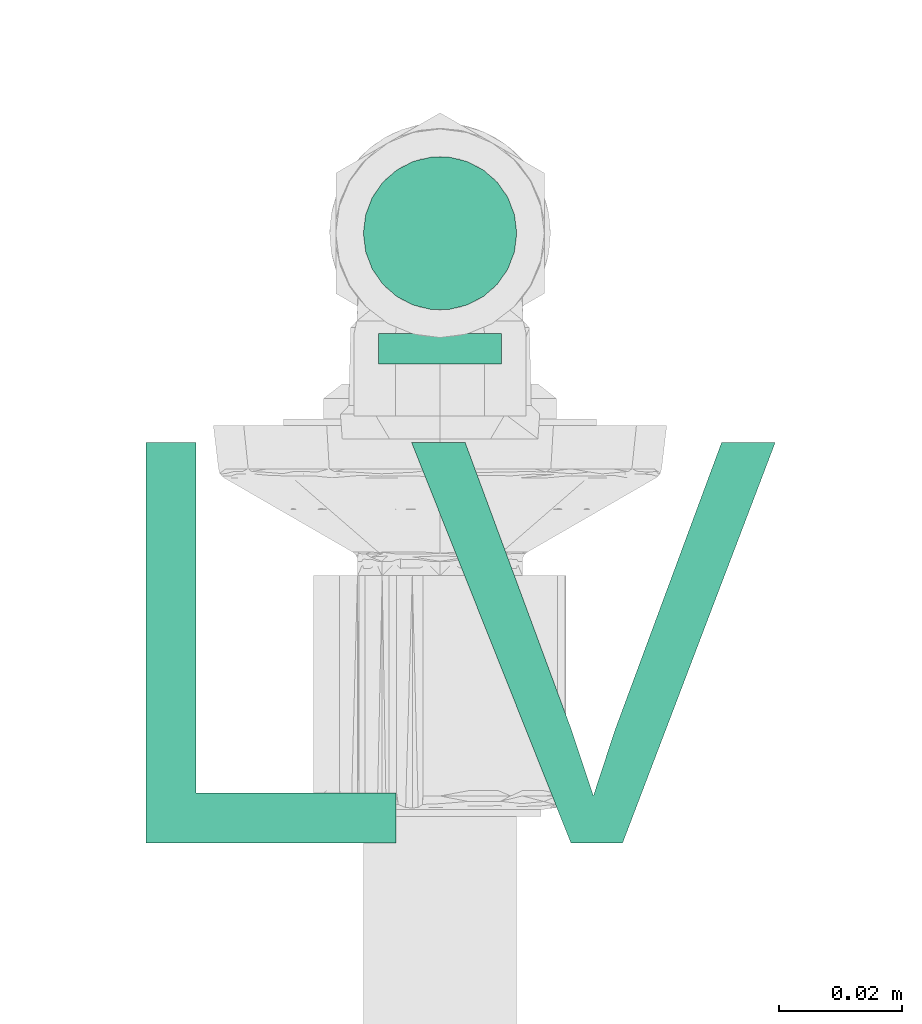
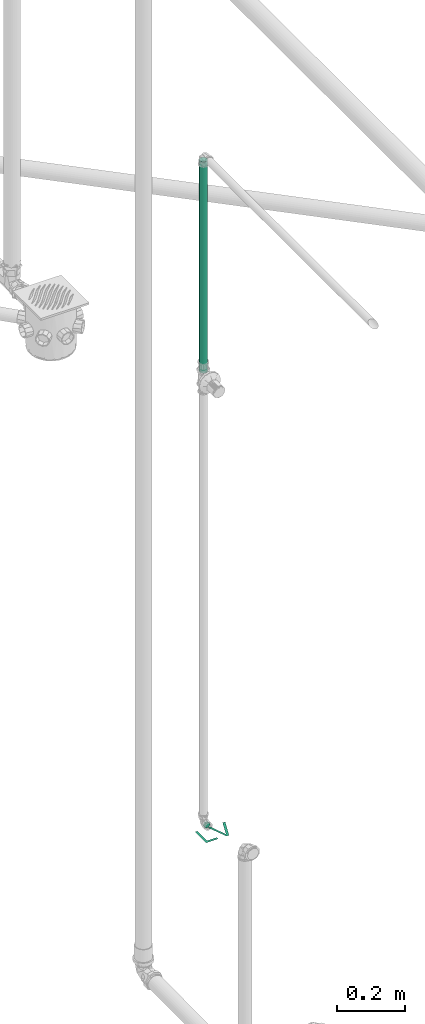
# One storey, part 187 of 589: 1 flow segment, 1 flow terminal.
"""IFC2X3 building model written with IfcOpenShell, lengths in millimetres."""

import ifcopenshell
import ifcopenshell.guid

model = None  # the IFC model being written
_history = None  # IfcOwnerHistory: only IFC2X3 demands one
_inside = {}  # id of a spatial element -> (the spatial element, [elements in it])
_under = {}  # id of a project, library or spatial element -> (it, [spatial elements below it])
_declared = {}  # id of a project -> (the project, [libraries it declares])
_typed = {}  # id of a type object -> (the type object, [elements of that type])
_made_of = {}  # id of a material, layer set ... -> (it, [elements and type objects made of it])


def new_model(schema):
    """Start an empty IFC model of exactly this schema.

    Asked for "IFC4X3", IfcOpenShell would pick the latest addendum, in which some entities
    have other attributes; the version numbers below select the first issue.
    IFC2X3 requires an IfcOwnerHistory on every rooted entity: one is made here for all.
    """
    global model, _history
    if schema == "IFC4X3":
        model = ifcopenshell.file(schema_version=(4, 3, 0, 0))
    else:
        model = ifcopenshell.file(schema=schema)
    _inside.clear()
    _under.clear()
    _declared.clear()
    _typed.clear()
    _made_of.clear()
    _history = None
    if model.schema == "IFC2X3":
        org = make("IfcOrganization", Name="unknown")
        user = make(
            "IfcPersonAndOrganization",
            ThePerson=make("IfcPerson", FamilyName="unknown"),
            TheOrganization=org,
        )
        app = make(
            "IfcApplication",
            ApplicationDeveloper=org,
            Version="unknown",
            ApplicationFullName="unknown",
            ApplicationIdentifier="unknown",
        )
        _history = make(
            "IfcOwnerHistory",
            OwningUser=user,
            OwningApplication=app,
            ChangeAction="ADDED",
            CreationDate=0,
        )
    return model


def make(cls, **values):
    """One entity of the class cls with the attributes given. An attribute that is None is left unset."""
    return model.create_entity(
        cls, **{name: value for name, value in values.items() if value is not None}
    )


def entity(cls, *values):
    """Any entity or typed value of the class cls, its attributes in the order of the schema. None: left unset."""
    e = model.create_entity(cls)
    for i, value in enumerate(values):
        if value is not None:
            e[i] = value
    return e


def rooted(cls, **values):
    """An entity with a GlobalId (a new one), such as an element, a storey or a relation."""
    return make(cls, GlobalId=ifcopenshell.guid.new(), OwnerHistory=_history, **values)


def si_unit(unit_type, name, prefix=None):
    """IfcSIUnit, for example si_unit("LENGTHUNIT", "METRE", prefix="MILLI")."""
    return make("IfcSIUnit", UnitType=unit_type, Prefix=prefix, Name=name)


def converted_unit(unit_type, name, factor, base, dimensions=None, offset=None):
    """IfcConversionBasedUnit, such as the inch: factor (a typed value) times the base unit."""
    return make(
        "IfcConversionBasedUnit"
        if offset is None
        else "IfcConversionBasedUnitWithOffset",
        ConversionOffset=offset,
        Dimensions=None
        if dimensions is None
        else entity("IfcDimensionalExponents", *dimensions),
        UnitType=unit_type,
        Name=name,
        ConversionFactor=make(
            "IfcMeasureWithUnit", ValueComponent=factor, UnitComponent=base
        ),
    )


def derived_unit(unit_type, elements):
    """IfcDerivedUnit: a product of units, each with its exponent."""
    return make(
        "IfcDerivedUnit",
        Elements=[
            make("IfcDerivedUnitElement", Unit=unit, Exponent=power)
            for unit, power in elements
        ],
        UnitType=unit_type,
    )


def assignment(units):
    """IfcUnitAssignment: the units of a project."""
    return None if units is None else make("IfcUnitAssignment", Units=units)


def point(xyz):
    """IfcCartesianPoint."""
    return None if xyz is None else make("IfcCartesianPoint", Coordinates=xyz)


def direction(xyz):
    """IfcDirection."""
    return None if xyz is None else make("IfcDirection", DirectionRatios=xyz)


def frame(location, z_axis=None, x_axis=None):
    """IfcAxis2Placement3D, a coordinate frame: its origin and axes. An axis left out is left unset."""
    return make(
        "IfcAxis2Placement3D",
        Location=point(location),
        Axis=direction(z_axis),
        RefDirection=direction(x_axis),
    )


def frame_2d(location, x_axis=None):
    """IfcAxis2Placement2D, a coordinate frame in the plane: its origin and x axis."""
    return make(
        "IfcAxis2Placement2D", Location=point(location), RefDirection=direction(x_axis)
    )


def origin():
    """The frame at (0, 0, 0) with its axes left unset."""
    return frame((0.0, 0.0, 0.0))


def origin_2d_with_axis():
    """The frame at (0, 0) in the plane with the x axis (1, 0) written out."""
    return frame_2d((0.0, 0.0), x_axis=(1.0, 0.0))


def place(relative_to, where):
    """IfcLocalPlacement: puts the frame where relative to a parent placement (None: the world)."""
    return make(
        "IfcLocalPlacement", PlacementRelTo=relative_to, RelativePlacement=where
    )


def context(
    kind, dimensions, precision=None, world=None, true_north=None, identifier=None
):
    """IfcGeometricRepresentationContext, for example the 3D "Model" context."""
    return make(
        "IfcGeometricRepresentationContext",
        ContextIdentifier=identifier,
        ContextType=kind,
        CoordinateSpaceDimension=dimensions,
        Precision=precision,
        WorldCoordinateSystem=world,
        TrueNorth=true_north,
    )


def subcontext(parent, identifier, kind, view, scale=None):
    """IfcGeometricRepresentationSubContext, for example "Body" below "Model"."""
    return make(
        "IfcGeometricRepresentationSubContext",
        ContextIdentifier=identifier,
        ContextType=kind,
        ParentContext=parent,
        TargetScale=scale,
        TargetView=view,
    )


def project(units=None, contexts=None):
    """IfcProject with its units and contexts."""
    return rooted(
        "IfcProject",
        Name="project",
        RepresentationContexts=contexts,
        UnitsInContext=assignment(units),
    )


def spatial(cls, under=None, at=None, **own):
    """A site, building, storey or space (cls), placed at a placement, below another one or the project."""
    s = rooted(cls, ObjectPlacement=at, **own)
    if under is not None:
        _under.setdefault(under.id(), (under, []))[1].append(s)
    return s


def profile(cls, at=None, kind="AREA", **sizes):
    """A parametric profile (cls). Its sizes go by their IFC names, for example OverallWidth=200.0."""
    return make(cls, ProfileType=kind, Position=at, **sizes)


def circle(**sizes):
    """IfcCircleProfileDef."""
    return profile("IfcCircleProfileDef", **sizes)


def extrude(swept, where, along, depth):
    """IfcExtrudedAreaSolid: the profile swept, set in the frame where, extruded along a direction by depth."""
    return make(
        "IfcExtrudedAreaSolid",
        SweptArea=swept,
        Position=where,
        ExtrudedDirection=direction(along),
        Depth=depth,
    )


def faces_of(points, faces, orient=None, outer=None):
    """IfcFace entities. A face is a list of loops; a loop is a list of indices into points, from 0.

    orient and outer hold one flag for each loop. By default every Orientation is true, the
    first loop of a face is its IfcFaceOuterBound and the others are IfcFaceBound.
    """
    made = []
    for i, loops in enumerate(faces):
        bounds = []
        for j, loop in enumerate(loops):
            is_outer = j == 0 if outer is None else outer[i][j]
            bounds.append(
                make(
                    "IfcFaceOuterBound" if is_outer else "IfcFaceBound",
                    Bound=make("IfcPolyLoop", Polygon=[points[k] for k in loop]),
                    Orientation=True if orient is None else orient[i][j],
                )
            )
        made.append(make("IfcFace", Bounds=bounds))
    return made


def face_set(faces, orient=None, outer=None):
    """The faces of one IfcConnectedFaceSet. surface_model builds it on its shared points."""
    return ("IfcConnectedFaceSet", faces, orient, outer)


def surface_model(cls, points, shells):
    """IfcFaceBasedSurfaceModel or IfcShellBasedSurfaceModel (cls): surfaces that need not close."""
    shared = [point(p) for p in points]
    made = [make(c, CfsFaces=faces_of(shared, fs, o, b)) for c, fs, o, b in shells]
    if cls == "IfcFaceBasedSurfaceModel":
        return make(cls, FbsmFaces=made)
    return make(cls, SbsmBoundary=made)


def shape(context_of_items, identifier, shape_type, items):
    """IfcShapeRepresentation: the items that make up one representation, for example the "Body"."""
    return make(
        "IfcShapeRepresentation",
        ContextOfItems=context_of_items,
        RepresentationIdentifier=identifier,
        RepresentationType=shape_type,
        Items=items,
    )


def source(mapping_origin, context_of_items, identifier, shape_type, items):
    """IfcRepresentationMap: a shape defined once, which mapped items show again and again."""
    return make(
        "IfcRepresentationMap",
        MappingOrigin=mapping_origin,
        MappedRepresentation=shape(context_of_items, identifier, shape_type, items),
    )


def transform(
    local_origin,
    x_axis=None,
    y_axis=None,
    z_axis=None,
    scale=None,
    scale2=None,
    scale3=None,
    uniform=True,
):
    """IfcCartesianTransformationOperator3D, or its non-uniform kind. x_axis, y_axis, z_axis: its Axis1, 2, 3."""
    if uniform:
        return make(
            "IfcCartesianTransformationOperator3D",
            Axis1=direction(x_axis),
            Axis2=direction(y_axis),
            LocalOrigin=point(local_origin),
            Scale=scale,
            Axis3=direction(z_axis),
        )
    return make(
        "IfcCartesianTransformationOperator3DnonUniform",
        Axis1=direction(x_axis),
        Axis2=direction(y_axis),
        LocalOrigin=point(local_origin),
        Scale=scale,
        Axis3=direction(z_axis),
        Scale2=scale2,
        Scale3=scale3,
    )


def mapped(mapping_source, mapping_target):
    """IfcMappedItem: shows the shape of a source again, moved by a transform."""
    return make(
        "IfcMappedItem", MappingSource=mapping_source, MappingTarget=mapping_target
    )


def material(Name=None, Category=None):
    """IfcMaterial."""
    return make("IfcMaterial", Name=Name, Category=Category)


def made_of(thing, what):
    """Note that an element or type object is made of a material, layer set ...; save() writes the relation."""
    if what is not None:
        _made_of.setdefault(what.id(), (what, []))[1].append(thing)
    return thing


def type_object(cls, material=None, **own):
    """A type object (cls), such as IfcWallType, which elements share."""
    return made_of(rooted(cls, **own), material)


def type_shapes(of_type, sources):
    """Give a type object the sources (RepresentationMaps) that its elements show as mapped items."""
    of_type.RepresentationMaps = sources


def element(
    cls,
    number,
    at=None,
    inside=None,
    cuts=None,
    type_object=None,
    material=None,
    context=None,
    identifier="Body",
    shape_type=None,
    held_by="IfcProductDefinitionShape",
    body=None,
    shapes=None,
    **own,
):
    """One element of the class cls, such as IfcWall. Its Tag is "e" and its number.

    at: its placement. inside: the storey or other place that contains it. cuts: it is an
    opening in that element (IfcRelVoidsElement). A single representation is given by context,
    identifier, shape_type and body (its items); several are given by shapes. held_by: the class
    of the entity that holds the representations. save() writes the other relations.
    """
    e = rooted(cls, Tag="e%d" % number, ObjectPlacement=at, **own)
    if body is not None:
        shapes = [shape(context, identifier, shape_type, body)]
    if shapes is not None:
        e.Representation = make(held_by, Representations=shapes)
    if inside is not None:
        _inside.setdefault(inside.id(), (inside, []))[1].append(e)
    if cuts is not None:
        rooted(
            "IfcRelVoidsElement", RelatingBuildingElement=cuts, RelatedOpeningElement=e
        )
    if type_object is not None:
        _typed.setdefault(type_object.id(), (type_object, []))[1].append(e)
    return made_of(e, material)


def aggregate(whole, parts):
    """IfcRelAggregates: a whole, such as a stair, and the parts it consists of."""
    return rooted("IfcRelAggregates", RelatingObject=whole, RelatedObjects=parts)


def save(model, path):
    """Write the relations noted so far, then the file.

    IfcRelAggregates (storeys below a building ...), IfcRelContainedInSpatialStructure (elements
    in a storey), IfcRelDefinesByType, IfcRelAssociatesMaterial and IfcRelDeclares: one each for
    every whole, place, type object, material and project.
    """
    for whole, parts in _under.values():
        aggregate(whole, parts)
    for where, things in _inside.values():
        rooted(
            "IfcRelContainedInSpatialStructure",
            RelatedElements=things,
            RelatingStructure=where,
        )
    for kind, things in _typed.values():
        rooted("IfcRelDefinesByType", RelatedObjects=things, RelatingType=kind)
    for what, things in _made_of.values():
        rooted("IfcRelAssociatesMaterial", RelatedObjects=things, RelatingMaterial=what)
    for by, libraries in _declared.values():
        rooted("IfcRelDeclares", RelatingContext=by, RelatedDefinitions=libraries)
    model.write(path)


model = new_model("IFC2X3")

# Units and contexts
model_context = context("Model", 3, precision=0.01, world=origin(), true_north=direction((6.123031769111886e-17, 1.0)))
body_context = subcontext(model_context, "Body", "Model", "MODEL_VIEW")
ifc_project = project(units=[si_unit("LENGTHUNIT", "METRE", prefix="MILLI"), si_unit("AREAUNIT", "SQUARE_METRE"), si_unit("VOLUMEUNIT", "CUBIC_METRE"), converted_unit("PLANEANGLEUNIT", "DEGREE", entity("IfcRatioMeasure", 0.017453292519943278), si_unit("PLANEANGLEUNIT", "RADIAN"), dimensions=[0, 0, 0, 0, 0, 0, 0]), si_unit("MASSUNIT", "GRAM", prefix="KILO"), derived_unit("MASSDENSITYUNIT", [(si_unit("MASSUNIT", "GRAM", prefix="KILO"), 1), (si_unit("LENGTHUNIT", "METRE"), -3)]), derived_unit("IONCONCENTRATIONUNIT", [(si_unit("MASSUNIT", "GRAM", prefix="KILO"), 1), (si_unit("LENGTHUNIT", "METRE"), -3)]), derived_unit("MOMENTOFINERTIAUNIT", [(si_unit("LENGTHUNIT", "METRE"), 4)]), si_unit("TIMEUNIT", "SECOND"), si_unit("FREQUENCYUNIT", "HERTZ"), si_unit("THERMODYNAMICTEMPERATUREUNIT", "DEGREE_CELSIUS"), derived_unit("THERMALTRANSMITTANCEUNIT", [(si_unit("MASSUNIT", "GRAM", prefix="KILO"), 1), (si_unit("THERMODYNAMICTEMPERATUREUNIT", "KELVIN"), -1), (si_unit("TIMEUNIT", "SECOND"), -3)]), derived_unit("THERMALCONDUCTANCEUNIT", [(si_unit("MASSUNIT", "GRAM", prefix="KILO"), 1), (si_unit("THERMODYNAMICTEMPERATUREUNIT", "KELVIN"), -1), (si_unit("TIMEUNIT", "SECOND"), -3), (si_unit("LENGTHUNIT", "METRE"), 1)]), derived_unit("VOLUMETRICFLOWRATEUNIT", [(si_unit("LENGTHUNIT", "METRE"), 3), (si_unit("TIMEUNIT", "SECOND"), -1)]), derived_unit("MASSFLOWRATEUNIT", [(si_unit("MASSUNIT", "GRAM", prefix="KILO"), 1), (si_unit("TIMEUNIT", "SECOND"), -1)]), derived_unit("ROTATIONALFREQUENCYUNIT", [(si_unit("TIMEUNIT", "SECOND"), -1)]), si_unit("ELECTRICCURRENTUNIT", "AMPERE"), si_unit("ELECTRICVOLTAGEUNIT", "VOLT"), si_unit("POWERUNIT", "WATT"), si_unit("FORCEUNIT", "NEWTON", prefix="KILO"), si_unit("ILLUMINANCEUNIT", "LUX"), si_unit("LUMINOUSFLUXUNIT", "LUMEN"), si_unit("LUMINOUSINTENSITYUNIT", "CANDELA"), derived_unit("USERDEFINED", [(si_unit("MASSUNIT", "GRAM", prefix="KILO"), -1), (si_unit("LENGTHUNIT", "METRE"), -2), (si_unit("TIMEUNIT", "SECOND"), 3), (si_unit("LUMINOUSFLUXUNIT", "LUMEN"), 1)]), derived_unit("USERDEFINED", [(si_unit("MASSUNIT", "GRAM", prefix="KILO"), 1), (si_unit("TIMEUNIT", "SECOND"), -3), (si_unit("LENGTHUNIT", "METRE"), 3), (si_unit("ELECTRICCURRENTUNIT", "AMPERE"), -2)]), derived_unit("SOUNDPOWERUNIT", [(si_unit("MASSUNIT", "GRAM", prefix="KILO"), 1), (si_unit("TIMEUNIT", "SECOND"), -3), (si_unit("LENGTHUNIT", "METRE"), 2)]), derived_unit("SOUNDPRESSUREUNIT", [(si_unit("MASSUNIT", "GRAM", prefix="KILO"), 1), (si_unit("LENGTHUNIT", "METRE"), -1), (si_unit("TIMEUNIT", "SECOND"), -2)]), derived_unit("LINEARVELOCITYUNIT", [(si_unit("LENGTHUNIT", "METRE"), 1), (si_unit("TIMEUNIT", "SECOND"), -1)]), si_unit("PRESSUREUNIT", "PASCAL"), derived_unit("USERDEFINED", [(si_unit("MASSUNIT", "GRAM", prefix="KILO"), 1), (si_unit("LENGTHUNIT", "METRE"), -2), (si_unit("TIMEUNIT", "SECOND"), -2)]), derived_unit("LINEARFORCEUNIT", [(si_unit("MASSUNIT", "GRAM", prefix="KILO"), 1), (si_unit("TIMEUNIT", "SECOND"), -2)]), derived_unit("PLANARFORCEUNIT", [(si_unit("MASSUNIT", "GRAM", prefix="KILO"), 1), (si_unit("LENGTHUNIT", "METRE"), -1), (si_unit("TIMEUNIT", "SECOND"), -2)]), derived_unit("SPECIFICHEATCAPACITYUNIT", [(si_unit("THERMODYNAMICTEMPERATUREUNIT", "KELVIN"), -1), (si_unit("LENGTHUNIT", "METRE"), 2), (si_unit("TIMEUNIT", "SECOND"), -2)]), derived_unit("HEATINGVALUEUNIT", [(si_unit("LENGTHUNIT", "METRE"), 2), (si_unit("TIMEUNIT", "SECOND"), -2)]), derived_unit("VAPORPERMEABILITYUNIT", [(si_unit("LENGTHUNIT", "METRE"), -1), (si_unit("TIMEUNIT", "SECOND"), 1)]), derived_unit("DYNAMICVISCOSITYUNIT", [(si_unit("MASSUNIT", "GRAM", prefix="KILO"), 1), (si_unit("TIMEUNIT", "SECOND"), -1), (si_unit("LENGTHUNIT", "METRE"), -1)]), derived_unit("THERMALEXPANSIONCOEFFICIENTUNIT", [(si_unit("THERMODYNAMICTEMPERATUREUNIT", "KELVIN"), -1)]), derived_unit("MODULUSOFELASTICITYUNIT", [(si_unit("MASSUNIT", "GRAM", prefix="KILO"), 1), (si_unit("LENGTHUNIT", "METRE"), -1), (si_unit("TIMEUNIT", "SECOND"), -2)]), derived_unit("ISOTHERMALMOISTURECAPACITYUNIT", [(si_unit("LENGTHUNIT", "METRE"), 3), (si_unit("MASSUNIT", "GRAM", prefix="KILO"), -1)]), derived_unit("MOISTUREDIFFUSIVITYUNIT", [(si_unit("TIMEUNIT", "SECOND"), -1), (si_unit("LENGTHUNIT", "METRE"), 2)])], contexts=[model_context])

# Site, building, storey
site_placement = place(None, origin())
site = spatial("IfcSite", under=ifc_project, at=site_placement, Name="Default", CompositionType="ELEMENT")
building_placement = place(site_placement, origin())
building = spatial("IfcBuilding", under=site, at=building_placement, CompositionType="ELEMENT")
storey_placement = place(building_placement, frame((0.0, 0.0, 100.0)))
storey = spatial("IfcBuildingStorey", under=building, at=storey_placement, Name="TÉRREO", CompositionType="ELEMENT", Elevation=100.0)

# Flow segment
pipe_segment_type = type_object("IfcPipeSegmentType", Name="Tipos de tubos:PVC Marrom Soldável", PredefinedType="NOTDEFINED")
flow_segment_placement = place(storey_placement, origin())
element("IfcFlowSegment", 1, at=flow_segment_placement, inside=storey, type_object=pipe_segment_type, Name="Tipos de tubos:PVC Marrom Soldável", ObjectType="Tipos de tubos:PVC Marrom Soldável", context=body_context, shape_type="SweptSolid", body=[
    extrude(circle(Radius=12.5, at=origin_2d_with_axis()), frame((10116.726330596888, -4318.555342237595, 2220.0), z_axis=(0.0, 0.0, 1.0), x_axis=(-1.0, 0.0, 0.0)), (0.0, 0.0, 1.0), 759.600000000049),
])

# Flow terminal
ifc_material = material(Name="<Unnamed>")
distribution_element_type = type_object("IfcDistributionElementType", Name="Hidráulica_Ponto de Utilização_Uso Provável_Rodrigo MEP:Lavatório LV (Peso 0,3) 60cm do Piso", material=ifc_material)
shared_shape = source(origin(), body_context, "Body", "SurfaceModel", [
    surface_model("IfcFaceBasedSurfaceModel", [(0.0, 0.0, 11.595272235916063), (40.81037599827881, 0.0, 11.595272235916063), (40.81037599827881, 8.162075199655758, 11.595272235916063), (8.162075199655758, 8.162075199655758, 11.595272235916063), (8.162075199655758, 65.2966015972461, 11.595272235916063), (0.0, 65.2966015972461, 11.595272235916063), (69.281989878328, 0.0, 11.595272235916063), (77.71507148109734, 0.0, 11.595272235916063), (102.59983590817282, 65.2966015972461, 11.595272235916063), (93.86386479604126, 65.2966015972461, 11.595272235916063), (76.4238056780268, 18.253078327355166, 11.595272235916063), (72.94854709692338, 7.651945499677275, 11.595272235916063), (69.42546385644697, 18.253078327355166, 11.595272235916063), (52.03322939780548, 65.2966015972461, 11.595272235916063), (43.29725828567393, 65.2966015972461, 11.595272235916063), (37.95219179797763, 78.06704158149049, 11.595272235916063), (38.292933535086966, 78.06704158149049, 14.18346268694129), (39.291937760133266, 78.06704158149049, 16.595272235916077), (40.88112398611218, 78.06704158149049, 18.666340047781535), (42.95219179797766, 78.06704158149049, 20.255526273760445), (45.36400134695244, 78.06704158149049, 21.254530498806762), (47.952191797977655, 78.06704158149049, 21.59527223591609), (50.54038224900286, 78.06704158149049, 21.254530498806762), (52.95219179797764, 78.06704158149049, 20.255526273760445), (55.023259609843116, 78.06704158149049, 18.666340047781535), (56.61244583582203, 78.06704158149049, 16.595272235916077), (57.61145006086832, 78.06704158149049, 14.18346268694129), (57.95219179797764, 78.06704158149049, 11.595272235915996), (57.6114500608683, 78.06704158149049, 9.007081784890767), (56.612445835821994, 78.06704158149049, 6.595272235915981), (55.02325960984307, 78.06704158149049, 4.524204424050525), (52.95219179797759, 78.06704158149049, 2.9350181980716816), (50.540382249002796, 78.06704158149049, 1.936013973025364), (47.95219179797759, 78.06704158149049, 1.5952722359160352), (45.36400134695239, 78.06704158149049, 1.936013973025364), (42.952191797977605, 78.06704158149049, 2.9350181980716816), (40.88112398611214, 78.06704158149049, 4.524204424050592), (39.29193776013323, 78.06704158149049, 6.595272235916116), (38.292933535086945, 78.06704158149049, 9.007081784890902), (37.95219179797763, 83.06704158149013, 11.595272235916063), (38.292933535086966, 83.06704158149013, 14.18346268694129), (39.291937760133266, 83.06704158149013, 16.595272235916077), (40.88112398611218, 83.06704158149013, 18.666340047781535), (42.95219179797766, 83.06704158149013, 20.255526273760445), (45.36400134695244, 83.06704158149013, 21.254530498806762), (47.952191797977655, 83.06704158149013, 21.59527223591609), (50.54038224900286, 83.06704158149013, 21.254530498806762), (52.95219179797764, 83.06704158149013, 20.255526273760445), (55.023259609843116, 83.06704158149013, 18.666340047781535), (56.61244583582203, 83.06704158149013, 16.595272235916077), (57.61145006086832, 83.06704158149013, 14.18346268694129), (57.95219179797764, 83.06704158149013, 11.595272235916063), (57.6114500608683, 83.06704158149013, 9.007081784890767), (56.612445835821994, 83.06704158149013, 6.595272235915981), (55.02325960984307, 83.06704158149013, 4.524204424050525), (52.95219179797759, 83.06704158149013, 2.9350181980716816), (50.540382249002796, 83.06704158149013, 1.936013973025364), (47.95219179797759, 83.06704158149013, 1.5952722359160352), (45.36400134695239, 83.06704158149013, 1.936013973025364), (42.952191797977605, 83.06704158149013, 2.9350181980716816), (40.88112398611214, 83.06704158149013, 4.524204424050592), (39.29193776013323, 83.06704158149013, 6.595272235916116), (38.292933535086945, 83.06704158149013, 9.007081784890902)], [face_set([[[0, 1, 2, 3, 4, 5]], [[6, 7, 8, 9, 10, 11, 12, 13, 14]]]), face_set([[[15, 16, 17, 18, 19, 20, 21, 22, 23, 24, 25, 26, 27, 28, 29, 30, 31, 32, 33, 34, 35, 36, 37, 38]], [[39, 40, 41, 42, 43, 44, 45, 46, 47, 48, 49, 50, 51, 52, 53, 54, 55, 56, 57, 58, 59, 60, 61, 62]], [[39, 62, 38, 15]], [[62, 61, 37, 38]], [[60, 59, 35, 36]], [[61, 60, 36, 37]], [[59, 58, 34, 35]], [[33, 34, 58, 57]], [[57, 56, 32, 33]], [[56, 55, 31, 32]], [[54, 53, 29, 30]], [[55, 54, 30, 31]], [[53, 52, 28, 29]], [[27, 28, 52, 51]], [[51, 50, 26, 27]], [[50, 49, 25, 26]], [[48, 47, 23, 24]], [[49, 48, 24, 25]], [[47, 46, 22, 23]], [[21, 22, 46, 45]], [[45, 44, 20, 21]], [[44, 43, 19, 20]], [[42, 41, 17, 18]], [[43, 42, 18, 19]], [[41, 40, 16, 17]], [[15, 16, 40, 39]]])]),
])
type_shapes(distribution_element_type, [shared_shape])
flow_terminal_placement = place(storey_placement, frame((10068.77413879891, -4417.922383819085, 588.4047277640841)))
element("IfcFlowTerminal", 2, at=flow_terminal_placement, inside=storey, type_object=distribution_element_type, material=ifc_material, Name="Hidráulica_Ponto de Utilização_Uso Provável_Rodrigo MEP:Lavatório LV (Peso 0,3) 60cm do Piso", ObjectType="Hidráulica_Ponto de Utilização_Uso Provável_Rodrigo MEP:Lavatório LV (Peso 0,3) 60cm do Piso", context=body_context, shape_type="MappedRepresentation", body=[
    mapped(shared_shape, transform((0.0, 0.0, 0.0), scale=1.0)),
])

save(model, "model.ifc")
